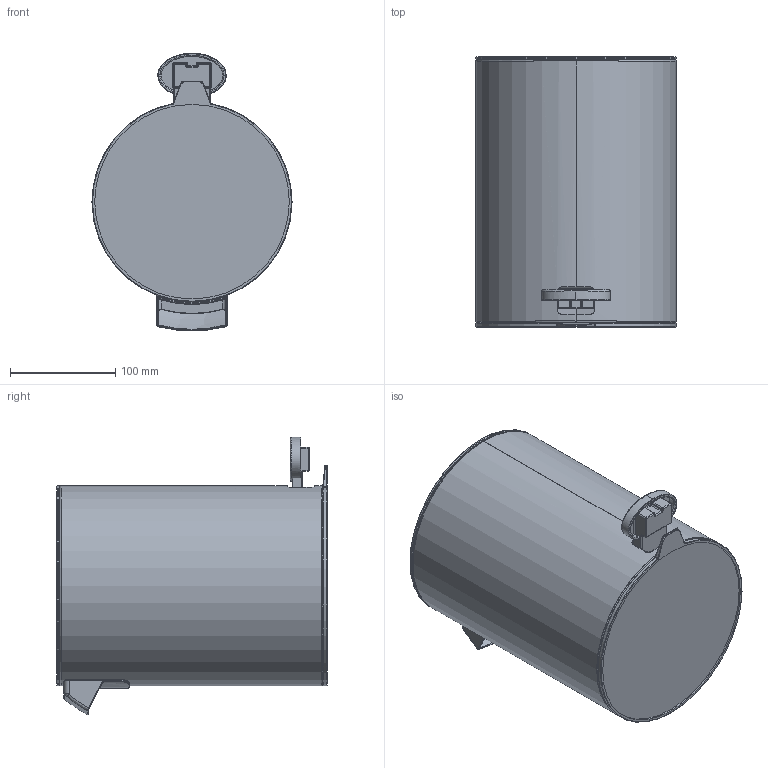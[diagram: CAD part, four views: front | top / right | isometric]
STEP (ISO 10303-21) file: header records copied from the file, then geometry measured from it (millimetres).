
FILE_DESCRIPTION((''),'2;1');
FILE_NAME('46767--_ASM','2025-03-03T15:10:11',('clra1'),(''),'CREO PARAMETRIC BY PTC INC, 2022244','CREO PARAMETRIC BY PTC INC, 2022244','');
FILE_SCHEMA(('CONFIG_CONTROL_DESIGN'));
Length unit declared in the file: millimetre
Products named in the file (7): 46767--_01; 46767--_02; 46767--_03; 46767--_04; 46767--_05; 46767--_06; 46767--_ASM
Assembly tree (6 placements, depth 2):
  46767--_ASM
    46767--_01
    46767--_02
    46767--_03
    46767--_04
    46767--_05
    46767--_06
Bounding box: 190 x 256.54 x 263.56 mm (x, y, z)
Volume: 557412.4 mm3; surface area: 699000 mm2
Topology: 9 solids, 10 shells, 522 faces, 1269 edges, 773 vertices
Faces by surface type: cylinder 168, plane 154, torus 88, bspline 84, sphere 12, cone 11, extrusion 5
Entity records: 22047 total; most frequent: CARTESIAN_POINT 10063, ORIENTED_EDGE 2534, DIRECTION 2462, EDGE_CURVE 1269, AXIS2_PLACEMENT_3D 996, VERTEX_POINT 773, CIRCLE 544, EDGE_LOOP 543
